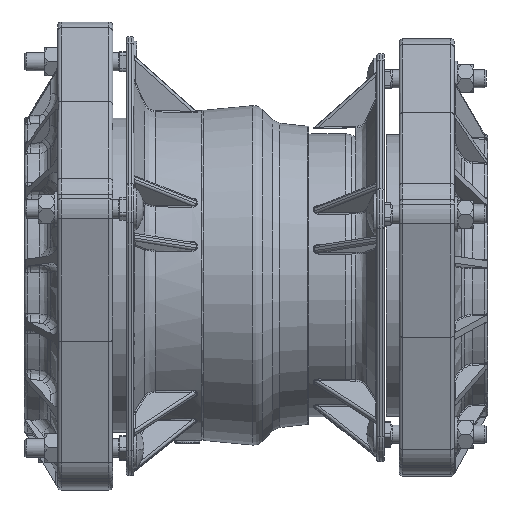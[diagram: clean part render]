
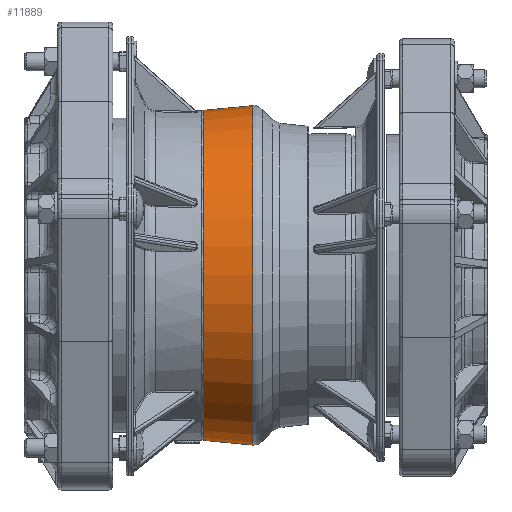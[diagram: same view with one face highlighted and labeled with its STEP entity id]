
A CAD part, top view. The second image highlights one B-rep face of the part: STEP entity #11889.
In plain terms, the highlighted conical face has half-angle 5.363 degrees and reference radius 142.587 mm.
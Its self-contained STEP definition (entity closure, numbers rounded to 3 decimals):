
#11858=CARTESIAN_POINT('',(-112.246,0.,-144.568));
#11859=VERTEX_POINT('',#11858);
#11860=CARTESIAN_POINT('',(-112.246,0.0,0.0));
#11861=DIRECTION('',(-1.0,0.0,0.0));
#11862=DIRECTION('',(0.0,-1.0,0.0));
#11863=AXIS2_PLACEMENT_3D('',#11860,#11861,#11862);
#11864=CIRCLE('',#11863,144.568);
#11865=EDGE_CURVE('',#11859,#11859,#11864,.T.);
#11870=CARTESIAN_POINT('',(-133.346,0.0,0.0));
#11871=DIRECTION('',(1.0,0.0,0.0));
#11872=DIRECTION('',(0.0,-1.0,0.0));
#11873=AXIS2_PLACEMENT_3D('',#11870,#11871,#11872);
#11874=CONICAL_SURFACE('',#11873,142.587,5.363);
#11875=ORIENTED_EDGE('',*,*,#11865,.T.);
#11876=EDGE_LOOP('',(#11875));
#11877=FACE_OUTER_BOUND('',#11876,.T.);
#11878=CARTESIAN_POINT('',(-154.447,0.,-140.606));
#11879=VERTEX_POINT('',#11878);
#11880=CARTESIAN_POINT('',(-154.447,0.0,0.0));
#11881=DIRECTION('',(-1.0,0.0,0.0));
#11882=DIRECTION('',(0.0,-1.0,0.0));
#11883=AXIS2_PLACEMENT_3D('',#11880,#11881,#11882);
#11884=CIRCLE('',#11883,140.606);
#11885=EDGE_CURVE('',#11879,#11879,#11884,.T.);
#11886=ORIENTED_EDGE('',*,*,#11885,.F.);
#11887=EDGE_LOOP('',(#11886));
#11888=FACE_BOUND('',#11887,.T.);
#11889=ADVANCED_FACE('',(#11877,#11888),#11874,.T.);
